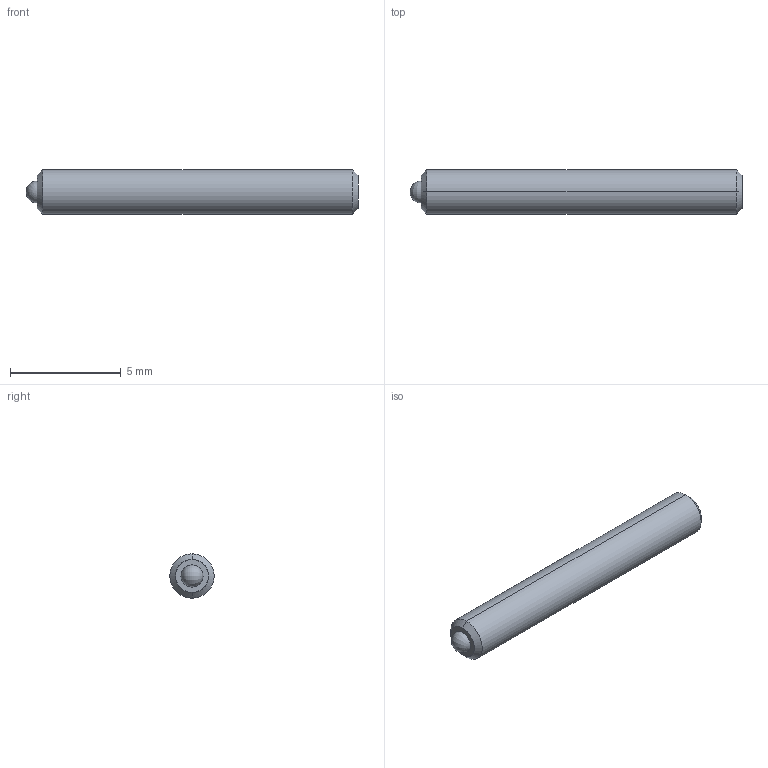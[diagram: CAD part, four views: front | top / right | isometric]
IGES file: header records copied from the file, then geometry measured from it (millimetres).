
Start section: SolidWorks IGES file using analytic representation for surfaces
Global section: file name: C:\Users\workpc\Desktop\KMA Solidworks\TS2-25-15.IGS; native system: SolidWorks 2013; preprocessor: SolidWorks 2013; author: workpc; date: 130217.114835; units: millimetre
Bounding box: 15 x 2 x 2 mm (x, y, z)
Surface area: 106.3 mm2 (no closed solid volume)
Topology: 0 solids, 0 shells, 20 faces, 140 edges, 136 vertices
Faces by surface type: revolution 10, bspline 10
